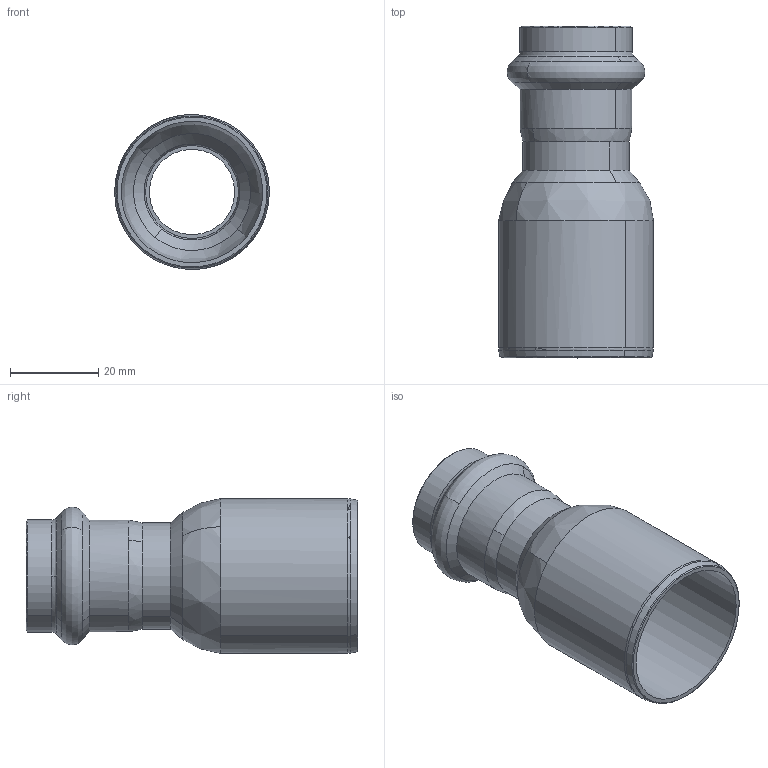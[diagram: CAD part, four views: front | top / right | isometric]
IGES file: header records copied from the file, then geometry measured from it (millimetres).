
Start section: Elysium IGES Interface
Global section: file name: C:\3d modellen sudo\C-Pr VP\SP8243V\8243VW3522.igs; native system: CoCreate Modeling 17.00A  17-Jun-2010; preprocessor: CoCreate IGES_3D V2.2; author: Unknown; organization: Unknown; date: 20130305.092722; units: millimetre
Bounding box: 35 x 75 x 35 mm (x, y, z)
Volume: 11662.5 mm3; surface area: 14427.1 mm2
Topology: 1 solids, 1 shells, 60 faces, 164 edges, 104 vertices
Faces by surface type: bspline 60
